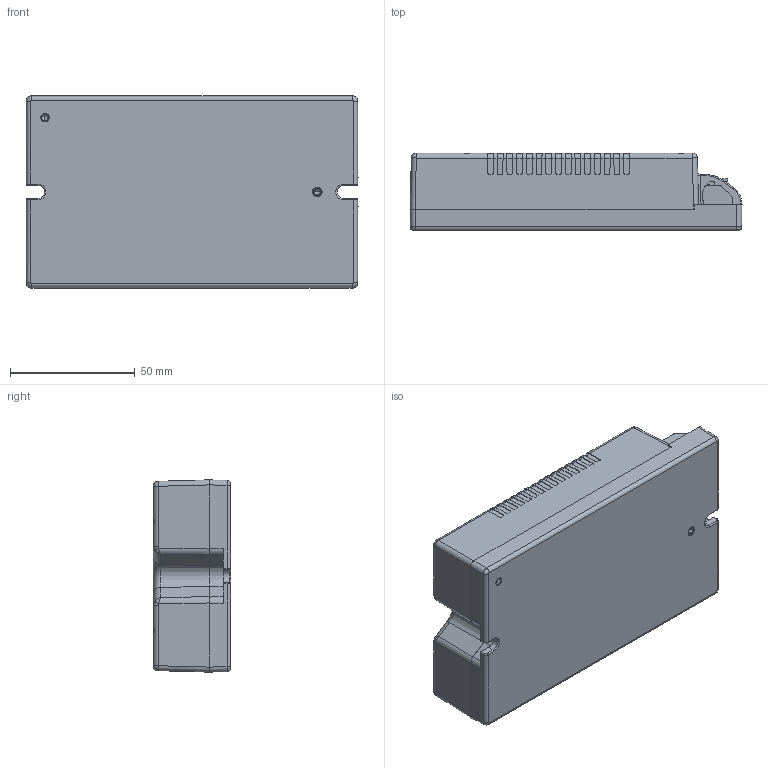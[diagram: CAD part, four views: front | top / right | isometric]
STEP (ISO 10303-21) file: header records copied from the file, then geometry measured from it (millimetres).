
FILE_DESCRIPTION((''),'2;1');
FILE_NAME('15012183','2018-06-14T',('elon.guo'),(''),'PRO/ENGINEER BY PARAMETRIC TECHNOLOGY CORPORATION, 2015200','PRO/ENGINEER BY PARAMETRIC TECHNOLOGY CORPORATION, 2015200','');
FILE_SCHEMA(('AUTOMOTIVE_DESIGN { 1 0 10303 214 1 1 1 1 }'));
Products named in the file (1): 15012183
Bounding box: 133.04 x 31 x 77.08 mm (x, y, z)
Volume: 68138.3 mm3; surface area: 85241.7 mm2
Topology: 1 solids, 1 shells, 3116 faces, 8732 edges, 5708 vertices
Faces by surface type: plane 1484, extrusion 860, cylinder 543, bspline 101, sphere 55, cone 50, torus 23
Entity records: 161159 total; most frequent: CARTESIAN_POINT 34724, ORIENTED_EDGE 17348, PRESENTATION_STYLE_ASSIGNMENT 12615, DIRECTION 12397, STYLED_ITEM 9535, CURVE_STYLE 9534, EDGE_CURVE 8674, VECTOR 6009
